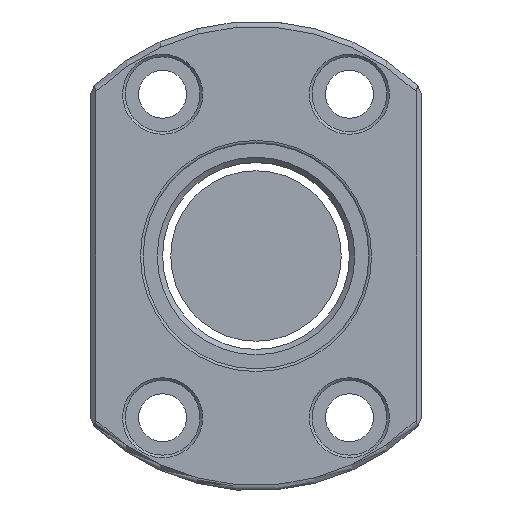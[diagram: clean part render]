
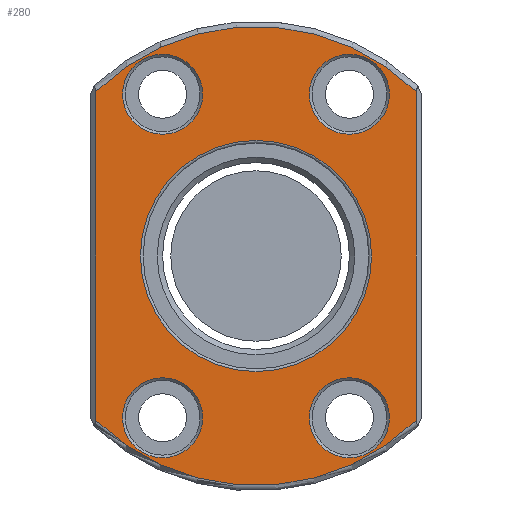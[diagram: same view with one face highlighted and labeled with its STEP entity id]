
A CAD part, front view. The second image highlights one B-rep face of the part: STEP entity #280.
In plain terms, the highlighted planar face has unit normal (0, -1, 0).
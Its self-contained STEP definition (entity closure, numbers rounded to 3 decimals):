
#57=LINE('',#1729,#97);
#58=LINE('',#1733,#98);
#97=VECTOR('',#1418,1.);
#98=VECTOR('',#1421,1.);
#203=PLANE('',#1189);
#280=ADVANCED_FACE('',(#386,#387,#388,#389,#390,#391),#203,.T.);
#386=FACE_BOUND('',#502,.T.);
#387=FACE_BOUND('',#503,.T.);
#388=FACE_BOUND('',#504,.T.);
#389=FACE_BOUND('',#505,.T.);
#390=FACE_BOUND('',#506,.T.);
#391=FACE_BOUND('',#507,.T.);
#502=EDGE_LOOP('',(#673));
#503=EDGE_LOOP('',(#674));
#504=EDGE_LOOP('',(#675));
#505=EDGE_LOOP('',(#676));
#506=EDGE_LOOP('',(#677));
#507=EDGE_LOOP('',(#678,#679,#680,#681));
#673=ORIENTED_EDGE('',*,*,#980,.T.);
#674=ORIENTED_EDGE('',*,*,#981,.T.);
#675=ORIENTED_EDGE('',*,*,#982,.T.);
#676=ORIENTED_EDGE('',*,*,#983,.T.);
#677=ORIENTED_EDGE('',*,*,#984,.T.);
#678=ORIENTED_EDGE('',*,*,#985,.T.);
#679=ORIENTED_EDGE('',*,*,#986,.T.);
#680=ORIENTED_EDGE('',*,*,#987,.T.);
#681=ORIENTED_EDGE('',*,*,#988,.T.);
#873=VERTEX_POINT('',#1717);
#874=VERTEX_POINT('',#1719);
#875=VERTEX_POINT('',#1721);
#876=VERTEX_POINT('',#1723);
#877=VERTEX_POINT('',#1725);
#878=VERTEX_POINT('',#1727);
#879=VERTEX_POINT('',#1728);
#880=VERTEX_POINT('',#1730);
#881=VERTEX_POINT('',#1732);
#980=EDGE_CURVE('',#873,#873,#1085,.T.);
#981=EDGE_CURVE('',#874,#874,#1086,.T.);
#982=EDGE_CURVE('',#875,#875,#1087,.T.);
#983=EDGE_CURVE('',#876,#876,#1088,.T.);
#984=EDGE_CURVE('',#877,#877,#1089,.T.);
#985=EDGE_CURVE('',#878,#879,#1090,.T.);
#986=EDGE_CURVE('',#879,#880,#57,.T.);
#987=EDGE_CURVE('',#880,#881,#1091,.T.);
#988=EDGE_CURVE('',#881,#878,#58,.T.);
#1085=CIRCLE('',#1182,21.65);
#1086=CIRCLE('',#1183,7.5);
#1087=CIRCLE('',#1184,7.5);
#1088=CIRCLE('',#1185,7.5);
#1089=CIRCLE('',#1186,7.5);
#1090=CIRCLE('',#1187,43.);
#1091=CIRCLE('',#1188,43.);
#1182=AXIS2_PLACEMENT_3D('',#1716,#1406,#1407);
#1183=AXIS2_PLACEMENT_3D('',#1718,#1408,#1409);
#1184=AXIS2_PLACEMENT_3D('',#1720,#1410,#1411);
#1185=AXIS2_PLACEMENT_3D('',#1722,#1412,#1413);
#1186=AXIS2_PLACEMENT_3D('',#1724,#1414,#1415);
#1187=AXIS2_PLACEMENT_3D('',#1726,#1416,#1417);
#1188=AXIS2_PLACEMENT_3D('',#1731,#1419,#1420);
#1189=AXIS2_PLACEMENT_3D('',#1734,#1422,#1423);
#1406=DIRECTION('',(0.,1.,0.));
#1407=DIRECTION('',(0.,0.,-1.));
#1408=DIRECTION('',(0.,1.,0.));
#1409=DIRECTION('',(0.,0.,-1.));
#1410=DIRECTION('',(0.,1.,0.));
#1411=DIRECTION('',(0.,0.,-1.));
#1412=DIRECTION('',(0.,1.,0.));
#1413=DIRECTION('',(0.,0.,-1.));
#1414=DIRECTION('',(0.,1.,0.));
#1415=DIRECTION('',(0.,0.,-1.));
#1416=DIRECTION('',(0.,-1.,0.));
#1417=DIRECTION('',(0.,0.,-1.));
#1418=DIRECTION('',(0.,0.,-1.));
#1419=DIRECTION('',(0.,-1.,0.));
#1420=DIRECTION('',(0.,0.,-1.));
#1421=DIRECTION('',(0.,0.,1.));
#1422=DIRECTION('',(0.,-1.,0.));
#1423=DIRECTION('',(0.,0.,-1.));
#1716=CARTESIAN_POINT('',(0.,0.,0.));
#1717=CARTESIAN_POINT('',(0.,0.,-21.65));
#1718=CARTESIAN_POINT('',(-17.5,0.,30.311));
#1719=CARTESIAN_POINT('',(-17.5,0.,22.811));
#1720=CARTESIAN_POINT('',(-17.5,0.,-30.311));
#1721=CARTESIAN_POINT('',(-17.5,0.,-37.811));
#1722=CARTESIAN_POINT('',(17.5,0.,30.311));
#1723=CARTESIAN_POINT('',(17.5,0.,22.811));
#1724=CARTESIAN_POINT('',(17.5,0.,-30.311));
#1725=CARTESIAN_POINT('',(17.5,0.,-37.811));
#1726=CARTESIAN_POINT('',(0.,0.,0.));
#1727=CARTESIAN_POINT('',(30.,0.,30.806));
#1728=CARTESIAN_POINT('',(-30.,0.,30.806));
#1729=CARTESIAN_POINT('',(-30.,0.,0.));
#1730=CARTESIAN_POINT('',(-30.,0.,-30.806));
#1731=CARTESIAN_POINT('',(0.,0.,0.));
#1732=CARTESIAN_POINT('',(30.,0.,-30.806));
#1733=CARTESIAN_POINT('',(30.,0.,29.799));
#1734=CARTESIAN_POINT('',(0.,0.,0.));
